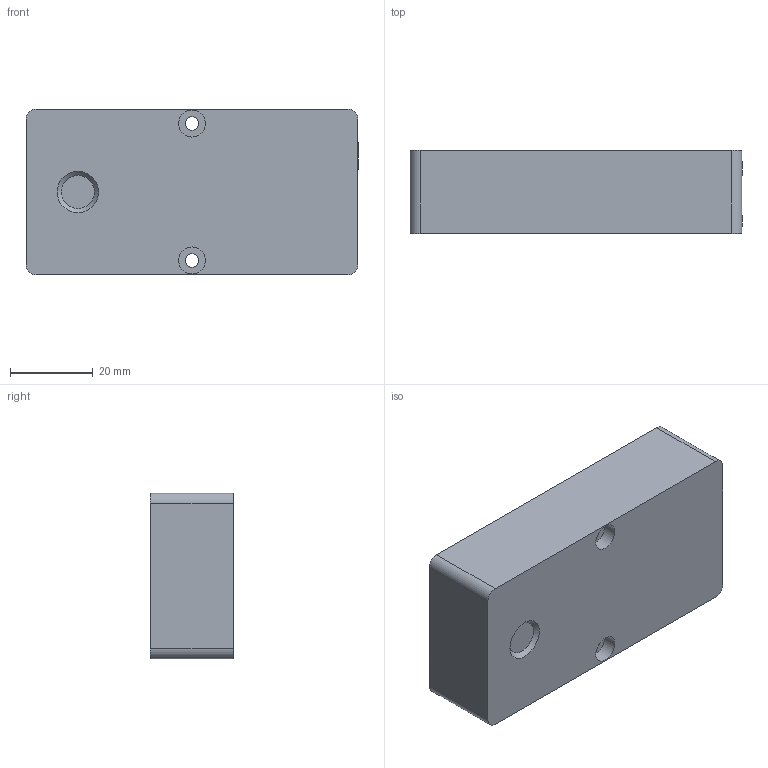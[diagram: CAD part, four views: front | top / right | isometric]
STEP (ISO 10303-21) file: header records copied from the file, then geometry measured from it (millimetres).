
FILE_DESCRIPTION (( 'STEP AP214' ), '1' );
FILE_NAME ('PLC Digit USB.STEP', '2019-11-15T10:05:00', ( '' ), ( '' ), 'SwSTEP 2.0', 'SolidWorks 2019', '' );
FILE_SCHEMA (( 'AUTOMOTIVE_DESIGN' ));
Length unit declared in the file: millimetre
Products named in the file (10): PLC Digit Sensor Gehäuse_STEP; PLC Digit USB; PLC Digit Deckel; Senkschraube ISO 14581 M2x5; 61400416121; 3; 2; PLC Digit v1.1 USB; 4; 5
Assembly tree (14 placements, depth 4):
  PLC Digit USB
    PLC Digit Sensor Gehäuse_STEP
    PLC Digit v1.1 USB
      61400416121
        2
        3
        4  x2
        5  x2
    PLC Digit Deckel
    Senkschraube ISO 14581 M2x5  x4
Bounding box: 80 x 20 x 40 mm (x, y, z)
Volume: 62620.5 mm3; surface area: 21115.1 mm2
Topology: 12 solids, 12 shells, 659 faces, 1716 edges, 1093 vertices
Faces by surface type: plane 409, cylinder 181, cone 45, bspline 20, torus 4
Full cylindrical faces by diameter (mm): 1.6 x4, 2 x4, 2.2 x4, 3.3 x2, 3.8 x4, 6.5 x2
Entity records: 15428 total; most frequent: CARTESIAN_POINT 3326, ORIENTED_EDGE 2414, DIRECTION 2362, EDGE_CURVE 1207, VECTOR 886, LINE 886, VERTEX_POINT 795, AXIS2_PLACEMENT_3D 738
